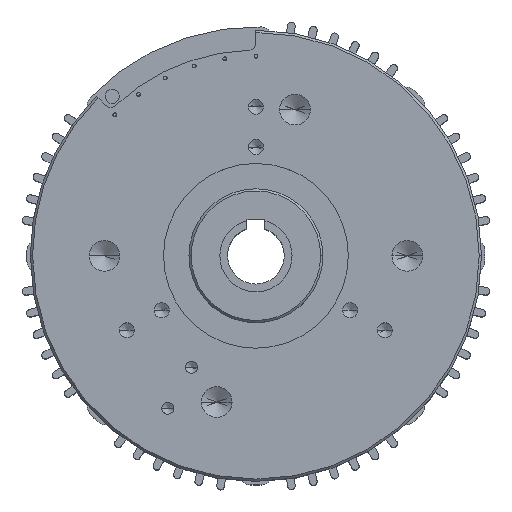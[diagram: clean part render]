
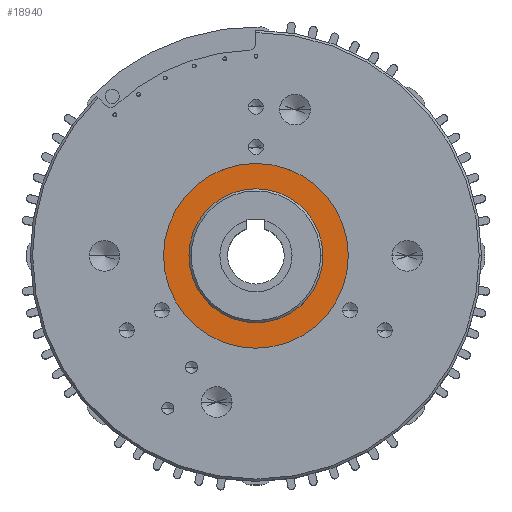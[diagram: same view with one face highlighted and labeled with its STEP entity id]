
A CAD part, top view. The second image highlights one B-rep face of the part: STEP entity #18940.
In plain terms, the highlighted planar face has unit normal (0, 0, 1).
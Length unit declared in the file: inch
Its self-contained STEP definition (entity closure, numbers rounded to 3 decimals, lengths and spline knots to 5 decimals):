
#425 = EDGE_CURVE ( 'NONE', #1607, #13615, #19729, .T. ) ;
#1390 = DIRECTION ( 'NONE',  ( 1., 0., 0. ) ) ;
#1449 = VERTEX_POINT ( 'NONE', #6353 ) ;
#1455 = EDGE_CURVE ( 'NONE', #13615, #1607, #15418, .T. ) ;
#1607 = VERTEX_POINT ( 'NONE', #12692 ) ;
#1804 = CARTESIAN_POINT ( 'NONE',  ( 0., 0.74917, -0.168 ) ) ;
#1990 = CARTESIAN_POINT ( 'NONE',  ( -0.74917, 0., -0.168 ) ) ;
#2267 = DIRECTION ( 'NONE',  ( 1., 0., 0. ) ) ;
#2290 = DIRECTION ( 'NONE',  ( 0., 0., 1. ) ) ;
#2308 = CARTESIAN_POINT ( 'NONE',  ( 0., 0., -0.168 ) ) ;
#2759 = FACE_BOUND ( 'NONE', #8247, .T. ) ;
#3130 = EDGE_LOOP ( 'NONE', ( #11055, #18486 ) ) ;
#3437 = CARTESIAN_POINT ( 'NONE',  ( -1.22015, 0., -0.168 ) ) ;
#4582 = VERTEX_POINT ( 'NONE', #1990 ) ;
#5795 = DIRECTION ( 'NONE',  ( 0., 0., 1. ) ) ;
#5814 = DIRECTION ( 'NONE',  ( 1., 0., 0. ) ) ;
#5882 = CIRCLE ( 'NONE', #15676, 0.74917 ) ;
#5885 = CIRCLE ( 'NONE', #7465, 0.74917 ) ;
#5896 = DIRECTION ( 'NONE',  ( 0., 0., 1. ) ) ;
#5908 = CARTESIAN_POINT ( 'NONE',  ( 0., 0., -0.168 ) ) ;
#6353 = CARTESIAN_POINT ( 'NONE',  ( 0.74917, 0., -0.168 ) ) ;
#6373 = AXIS2_PLACEMENT_3D ( 'NONE', #5908, #5795, #5814 ) ;
#6452 = DIRECTION ( 'NONE',  ( -1., 0., 0. ) ) ;
#7465 = AXIS2_PLACEMENT_3D ( 'NONE', #14995, #5896, #16516 ) ;
#8247 = EDGE_LOOP ( 'NONE', ( #14850, #12700 ) ) ;
#10571 = DIRECTION ( 'NONE',  ( 0., 0., 1. ) ) ;
#10898 = FACE_OUTER_BOUND ( 'NONE', #3130, .T. ) ;
#11055 = ORIENTED_EDGE ( 'NONE', *, *, #425, .T. ) ;
#11911 = EDGE_CURVE ( 'NONE', #4582, #1449, #5885, .T. ) ;
#12493 = PLANE ( 'NONE',  #16431 ) ;
#12692 = CARTESIAN_POINT ( 'NONE',  ( 1.22015, 0., -0.168 ) ) ;
#12700 = ORIENTED_EDGE ( 'NONE', *, *, #11911, .F. ) ;
#13615 = VERTEX_POINT ( 'NONE', #3437 ) ;
#14850 = ORIENTED_EDGE ( 'NONE', *, *, #19371, .F. ) ;
#14995 = CARTESIAN_POINT ( 'NONE',  ( 0., 0., -0.168 ) ) ;
#15418 = CIRCLE ( 'NONE', #6373, 1.22015 ) ;
#15551 = DIRECTION ( 'NONE',  ( 0., 0., -1. ) ) ;
#15676 = AXIS2_PLACEMENT_3D ( 'NONE', #19611, #10571, #1390 ) ;
#16431 = AXIS2_PLACEMENT_3D ( 'NONE', #1804, #15551, #6452 ) ;
#16516 = DIRECTION ( 'NONE',  ( 1., 0., 0. ) ) ;
#18057 = AXIS2_PLACEMENT_3D ( 'NONE', #2308, #2290, #2267 ) ;
#18486 = ORIENTED_EDGE ( 'NONE', *, *, #1455, .T. ) ;
#18940 = ADVANCED_FACE ( 'NONE', ( #2759, #10898 ), #12493, .F. ) ;
#19371 = EDGE_CURVE ( 'NONE', #1449, #4582, #5882, .T. ) ;
#19611 = CARTESIAN_POINT ( 'NONE',  ( 0., 0., -0.168 ) ) ;
#19729 = CIRCLE ( 'NONE', #18057, 1.22015 ) ;
